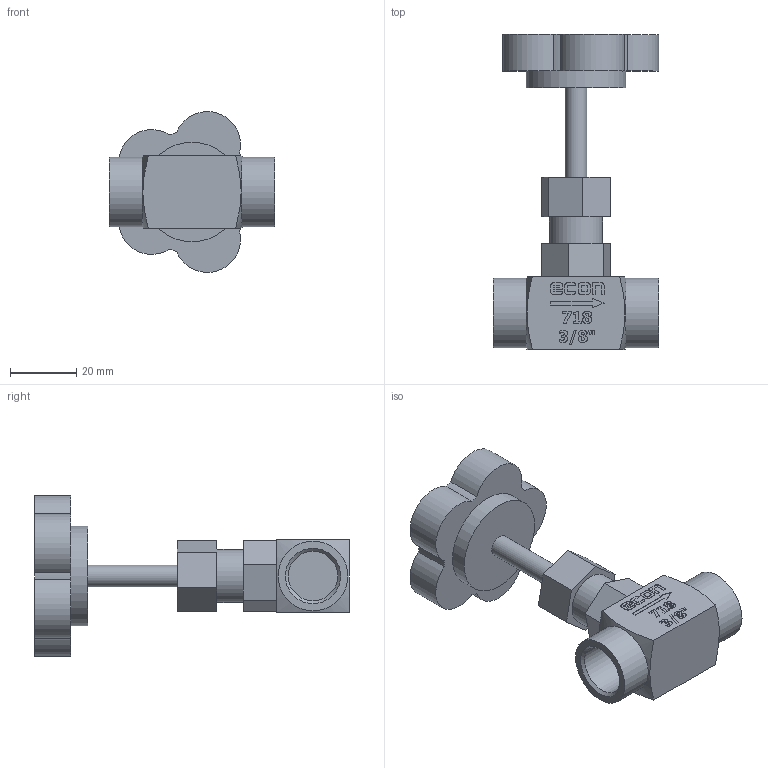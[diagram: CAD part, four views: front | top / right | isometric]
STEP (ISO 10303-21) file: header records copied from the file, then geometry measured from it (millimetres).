
FILE_DESCRIPTION(/* description */ ('Eriks item no: 11811609'),/* implementation_level */ '2;1');
FILE_NAME(/* name */ 'L:\DATA\ENG\Inventor\Econ 3D modellen\naaldafsluiter\718\718-010-PN100.stp',/* time_stamp */ '2024-02-12T09:13:06+01:00',/* author */ ('roger.thijssen'),/* organization */ (''),/* preprocessor_version */ 'ST-DEVELOPER v18',/* originating_system */ 'Autodesk Inventor 2020',/* authorisation */ '');
FILE_SCHEMA (('CONFIG_CONTROL_DESIGN'));
Length unit declared in the file: millimetre
Products named in the file (1): Needle valve, 718-010-PN100
Bounding box: 50 x 95 x 48.53 mm (x, y, z)
Volume: 43170.3 mm3; surface area: 14662.7 mm2
Topology: 1 solids, 1 shells, 240 faces, 639 edges, 430 vertices
Faces by surface type: plane 137, bspline 68, cylinder 30, cone 5
Full cylindrical faces by diameter (mm): 6.6 x1, 14.95 x2, 16 x1, 21 x2, 30 x1
Entity records: 8241 total; most frequent: CARTESIAN_POINT 2350, ORIENTED_EDGE 1278, DIRECTION 919, EDGE_CURVE 639, VERTEX_POINT 430, LINE 413, VECTOR 413, EDGE_LOOP 269
